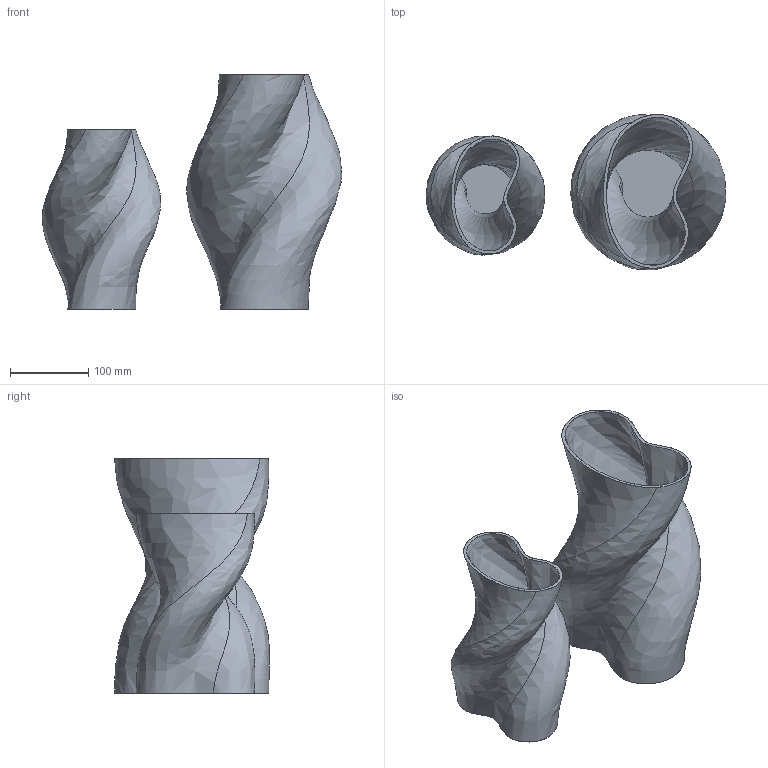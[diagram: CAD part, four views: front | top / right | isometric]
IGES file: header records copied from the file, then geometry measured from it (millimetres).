
Global section: file name: C:\Users\colombo_c\Desktop\Danese\Sito\3D mancanti\Guastalla\Guastalla.igs; native system: Rhinoceros ( Apr 16 2024 ); preprocessor: Trout Lake IGES 012 Apr 16 2024; date: 250710.103152; units: millimetre
Bounding box: 383.6 x 198.45 x 300 mm (x, y, z)
Surface area: 563833.6 mm2 (no closed solid volume)
Topology: 0 solids, 0 shells, 14 faces, 380 edges, 380 vertices
Faces by surface type: bspline 14
